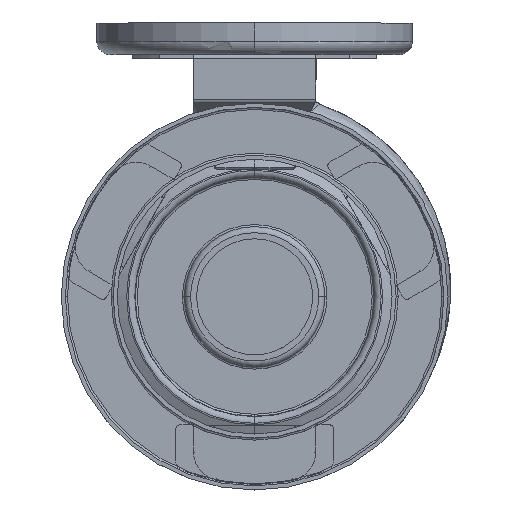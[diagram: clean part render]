
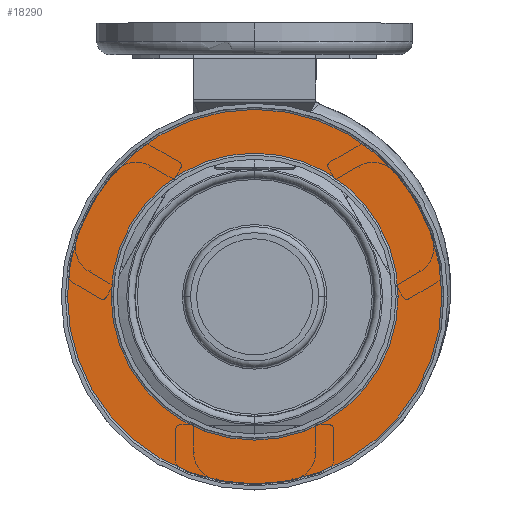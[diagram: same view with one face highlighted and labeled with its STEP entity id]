
A CAD part, top view. The second image highlights one B-rep face of the part: STEP entity #18290.
In plain terms, the highlighted planar face has unit normal (0, 0, 1) as drawn and (-1, 0, 0) by its records, which use the part's own axes.
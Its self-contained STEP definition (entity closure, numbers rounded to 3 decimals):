
#17972=CARTESIAN_POINT('',(6.,0.,0.));
#17973=DIRECTION('',(1.,0.,0.));
#17974=DIRECTION('',(0.,1.,0.));
#17975=AXIS2_PLACEMENT_3D('',#17972,#17973,#17974);
#17977=CARTESIAN_POINT('',(6.,0.,0.));
#17978=DIRECTION('',(1.,0.,0.));
#17979=DIRECTION('',(0.,-1.,0.));
#17980=AXIS2_PLACEMENT_3D('',#17977,#17978,#17979);
#17982=CARTESIAN_POINT('',(6.,0.,0.));
#17983=DIRECTION('',(1.,0.,0.));
#17984=DIRECTION('',(0.,1.,0.));
#17985=AXIS2_PLACEMENT_3D('',#17982,#17983,#17984);
#17987=CARTESIAN_POINT('',(6.,0.,0.));
#17988=DIRECTION('',(1.,0.,0.));
#17989=DIRECTION('',(0.,-1.,0.));
#17990=AXIS2_PLACEMENT_3D('',#17987,#17988,#17989);
#18092=CARTESIAN_POINT('',(6.,92.,0.));
#18093=CARTESIAN_POINT('',(6.,-92.,0.));
#18094=VERTEX_POINT('',#18092);
#18095=VERTEX_POINT('',#18093);
#18104=CARTESIAN_POINT('',(6.,70.5,0.));
#18105=CARTESIAN_POINT('',(6.,-70.5,0.));
#18106=VERTEX_POINT('',#18104);
#18107=VERTEX_POINT('',#18105);
#18274=CARTESIAN_POINT('',(6.,0.,0.));
#18275=DIRECTION('',(1.,0.,0.));
#18276=DIRECTION('',(0.,-1.,0.));
#18277=AXIS2_PLACEMENT_3D('',#18274,#18275,#18276);
#18278=PLANE('',#18277);
#18279=ORIENTED_EDGE('',*,*,#18264,.T.);
#18281=ORIENTED_EDGE('',*,*,#18280,.T.);
#18282=EDGE_LOOP('',(#18279,#18281));
#18283=FACE_OUTER_BOUND('',#18282,.F.);
#18285=ORIENTED_EDGE('',*,*,#18284,.F.);
#18287=ORIENTED_EDGE('',*,*,#18286,.F.);
#18288=EDGE_LOOP('',(#18285,#18287));
#18289=FACE_BOUND('',#18288,.F.);
#18290=ADVANCED_FACE('',(#18283,#18289),#18278,.F.);
#17976=CIRCLE('',#17975,92.);
#17981=CIRCLE('',#17980,92.);
#17986=CIRCLE('',#17985,70.5);
#17991=CIRCLE('',#17990,70.5);
#18264=EDGE_CURVE('',#18094,#18095,#17976,.T.);
#18280=EDGE_CURVE('',#18095,#18094,#17981,.T.);
#18284=EDGE_CURVE('',#18106,#18107,#17986,.T.);
#18286=EDGE_CURVE('',#18107,#18106,#17991,.T.);
